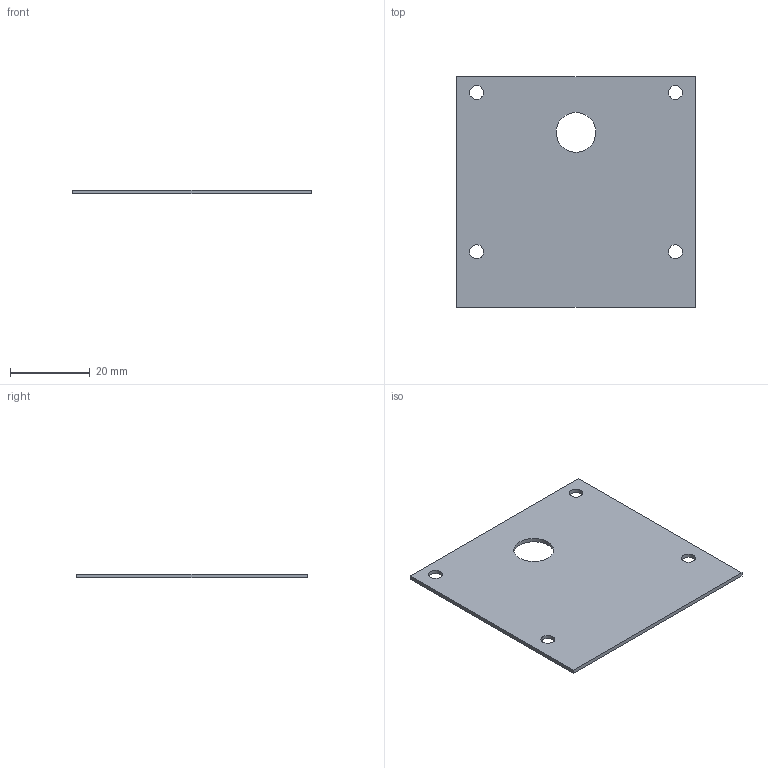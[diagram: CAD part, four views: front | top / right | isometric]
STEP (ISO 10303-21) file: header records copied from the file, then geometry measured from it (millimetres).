
FILE_DESCRIPTION(/* description */ (''),/* implementation_level */ '2;1');
FILE_NAME(/* name */ 'p_Aethalometer-Flachdichtung_C-01.stp',/* time_stamp */ '2020-02-07T10:55:30+01:00',/* author */ (''),/* organization */ (''),/* preprocessor_version */ 'ST-DEVELOPER v16.7',/* originating_system */ 'SIEMENS PLM Software NX 12.0',/* authorisation */ '');
FILE_SCHEMA (('AUTOMOTIVE_DESIGN { 1 0 10303 214 3 1 1 1 }'));
Length unit declared in the file: millimetre
Products named in the file (1): p_Aethalometer-Flachdichtung_C-01
Bounding box: 60 x 58 x 1 mm (x, y, z)
Surface area: 14074.7 mm2
Topology: 2 solids, 2 shells, 22 faces, 67 edges, 54 vertices
Faces by surface type: plane 12, cylinder 10
Full cylindrical faces by diameter (mm): 3.5 x8, 10 x2
Entity records: 770 total; most frequent: DIRECTION 124, CARTESIAN_POINT 113, ORIENTED_EDGE 88, EDGE_LOOP 52, AXIS2_PLACEMENT_3D 48, FACE_BOUND 44, EDGE_CURVE 44, VERTEX_POINT 36
